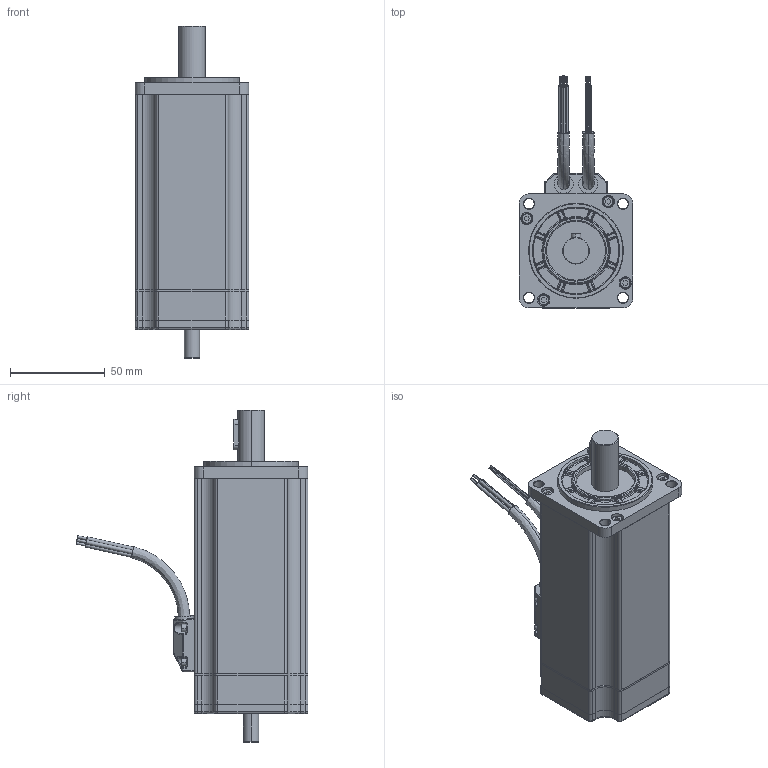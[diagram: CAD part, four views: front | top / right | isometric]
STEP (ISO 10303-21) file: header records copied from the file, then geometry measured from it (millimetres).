
FILE_DESCRIPTION (( 'STEP AP214' ), '1' );
FILE_NAME ('BLK243.STEP', '2021-12-09T16:29:50', ( '' ), ( '' ), 'SwSTEP 2.0', 'SolidWorks 2020', '' );
FILE_SCHEMA (( 'AUTOMOTIVE_DESIGN' ));
Length unit declared in the file: millimetre
Products named in the file (1): BLK243
Bounding box: 60 x 122.26 x 175 mm (x, y, z)
Volume: 430735.1 mm3; surface area: 44195.2 mm2
Topology: 1 solids, 1 shells, 798 faces, 1894 edges, 1107 vertices
Faces by surface type: cylinder 301, plane 216, torus 165, bspline 60, cone 34, sphere 22
Entity records: 33303 total; most frequent: CARTESIAN_POINT 6120, DIRECTION 4164, ORIENTED_EDGE 3702, EDGE_CURVE 1851, AXIS2_PLACEMENT_3D 1702, VERTEX_POINT 1106, CIRCLE 963, EDGE_LOOP 857
